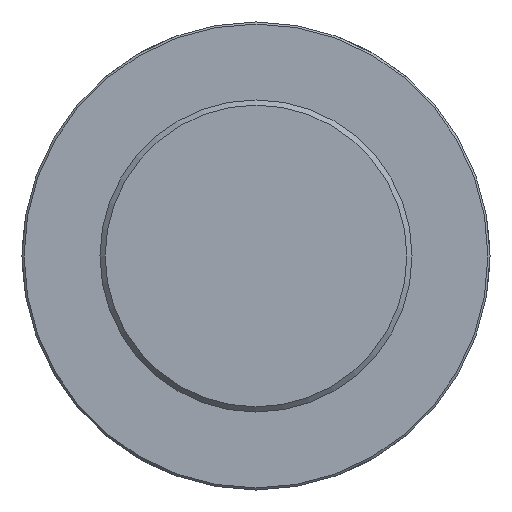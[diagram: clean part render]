
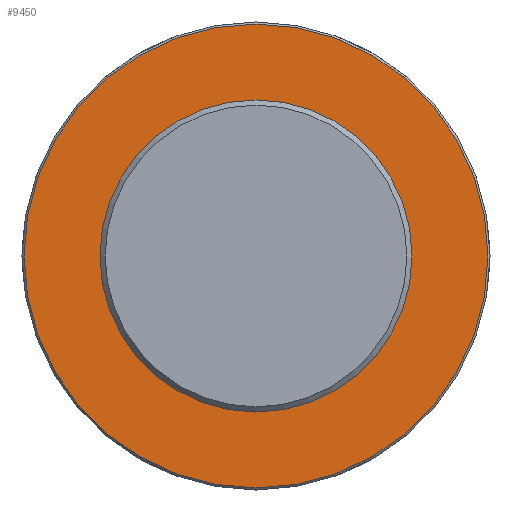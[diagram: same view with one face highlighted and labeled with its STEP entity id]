
A CAD part, front view. The second image highlights one B-rep face of the part: STEP entity #9450.
In plain terms, the highlighted planar face has unit normal (0, -1, 0) as drawn and (0, 1, 0) by its records, which use the part's own axes.
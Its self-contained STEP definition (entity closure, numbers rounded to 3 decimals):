
#73=CIRCLE('',#9813,223.);
#1355=FACE_OUTER_BOUND('',#1923,.T.);
#1923=EDGE_LOOP('',(#8662));
#4575=VERTEX_POINT('',#17138);
#5942=EDGE_CURVE('',#4575,#4575,#73,.T.);
#8662=ORIENTED_EDGE('',*,*,#5942,.F.);
#8950=PLANE('',#9816);
#9450=ADVANCED_FACE('',(#1355),#8950,.T.);
#9813=AXIS2_PLACEMENT_3D('',#17139,#11264,#11265);
#9816=AXIS2_PLACEMENT_3D('',#17377,#11270,#11271);
#11264=DIRECTION('center_axis',(0.,-1.,0.));
#11265=DIRECTION('ref_axis',(1.,0.,0.));
#11270=DIRECTION('center_axis',(0.,1.,0.));
#11271=DIRECTION('ref_axis',(0.,0.,1.));
#17138=CARTESIAN_POINT('',(-223.,205.,0.));
#17139=CARTESIAN_POINT('Origin',(0.,205.,0.));
#17377=CARTESIAN_POINT('Origin',(0.,205.,0.));
